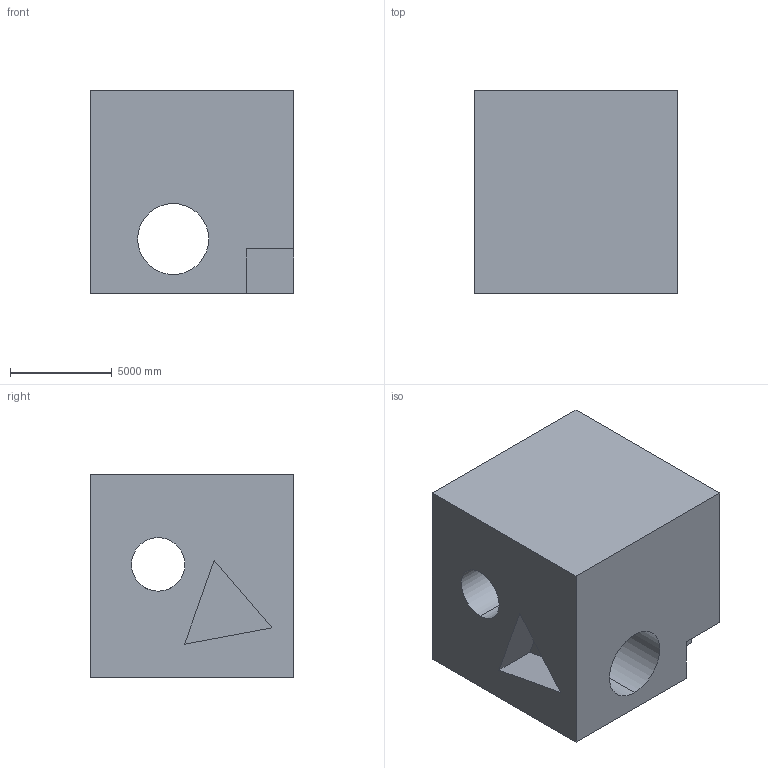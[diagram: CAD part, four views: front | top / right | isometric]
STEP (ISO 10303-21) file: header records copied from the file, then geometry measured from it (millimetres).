
FILE_DESCRIPTION (( 'STEP AP203' ), '1' );
FILE_NAME ('263.STEP', '2022-09-07T12:30:22', ( 'user' ), ( '' ), 'SwSTEP 2.0', 'SolidWorks 2021', '' );
FILE_SCHEMA (( 'CONFIG_CONTROL_DESIGN' ));
Length unit declared in the file: centimetre
Products named in the file (1): 263
Bounding box: 10000 x 10000 x 10000 mm (x, y, z)
Volume: 822165699255.9 mm3; surface area: 787247397.9 mm2
Topology: 1 solids, 1 shells, 17 faces, 48 edges, 32 vertices
Faces by surface type: plane 13, cylinder 4
Entity records: 875 total; most frequent: CARTESIAN_POINT 342, ORIENTED_EDGE 96, DIRECTION 88, EDGE_CURVE 48, VECTOR 36, LINE 36, VERTEX_POINT 32, AXIS2_PLACEMENT_3D 26
